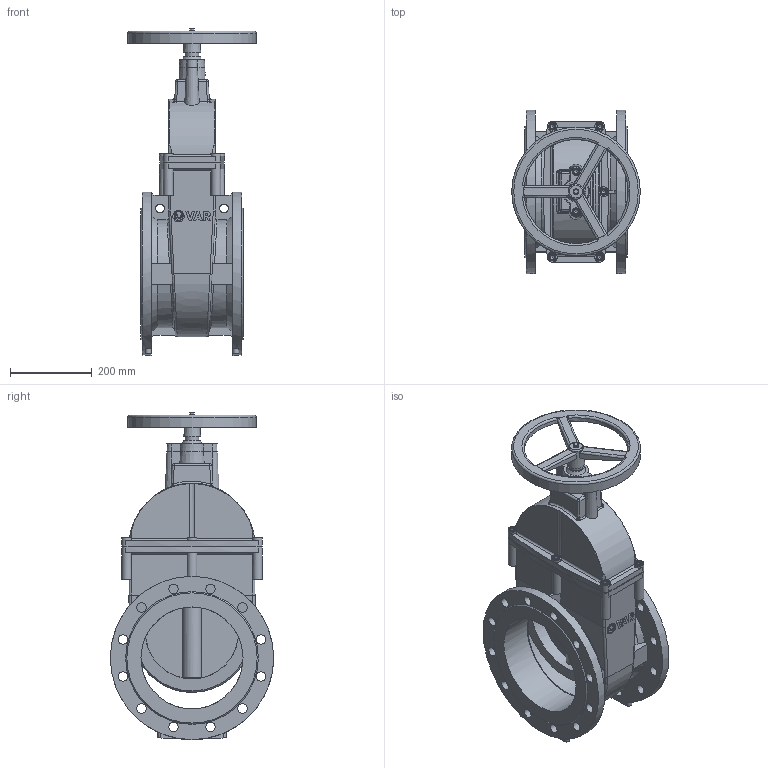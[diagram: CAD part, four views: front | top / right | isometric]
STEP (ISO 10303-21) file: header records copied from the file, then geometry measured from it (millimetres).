
FILE_DESCRIPTION(('STEP AP242'), '1');
FILE_NAME('青溻桄赅', '', ('UNSPECIFIED'), ('UNSPECIFIED'), 'C3D Converter', 'C3D Toolkit', '');
FILE_SCHEMA(('AP242_MANAGED_MODEL_BASED_3D_ENGINEERING_MIM_LF { 1 0 10303 442 1 1 4 }'));
Length unit declared in the file: millimetre
Assembly tree (17 placements, depth 2):
  (unnamed)
    (unnamed)
    (unnamed)
    (unnamed)
    (unnamed)
    (unnamed)  x2
    (unnamed)
    (unnamed)
    (unnamed)  x6
    (unnamed)  x2
    (unnamed)
Bounding box: 315 x 400 x 801.6 mm (x, y, z)
Volume: 11920987.4 mm3; surface area: 2183035.7 mm2
Topology: 20 solids, 20 shells, 959 faces, 2396 edges, 1530 vertices
Faces by surface type: plane 464, cylinder 201, extrusion 135, bspline 69, cone 69, torus 21
Full cylindrical faces by diameter (mm): 6 x3, 10 x8, 12 x30, 18 x16, 21.461 x2, 23 x24, 27.779 x1, 33 x7, 47.667 x4, 228 x2, 250 x4, 255 x1, 265 x1, 285.2 x4, 294 x1, 305 x1, 315 x1, 400 x2
Entity records: 43614 total; most frequent: CARTESIAN_POINT 22288, ORIENTED_EDGE 3892, DIRECTION 3114, EDGE_CURVE 1946, VERTEX_POINT 1336, EDGE_LOOP 1102, VECTOR 1050, AXIS2_PLACEMENT_3D 1032
